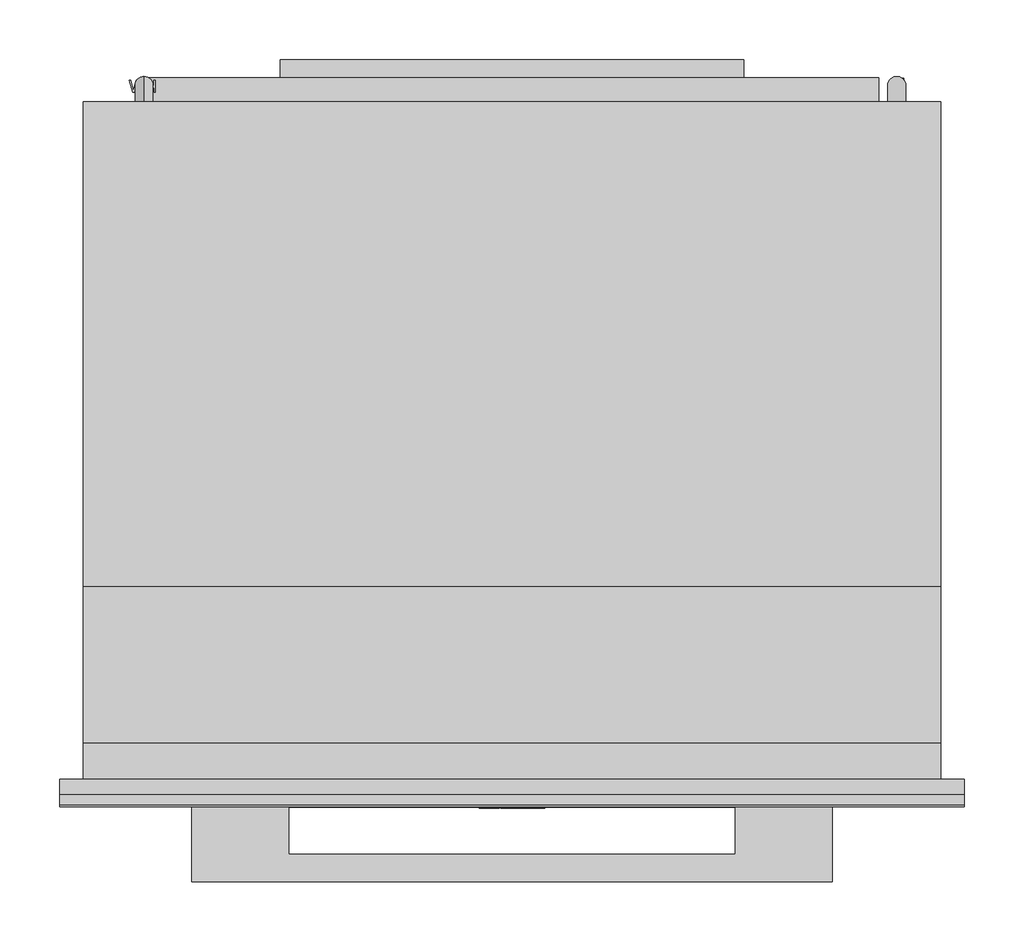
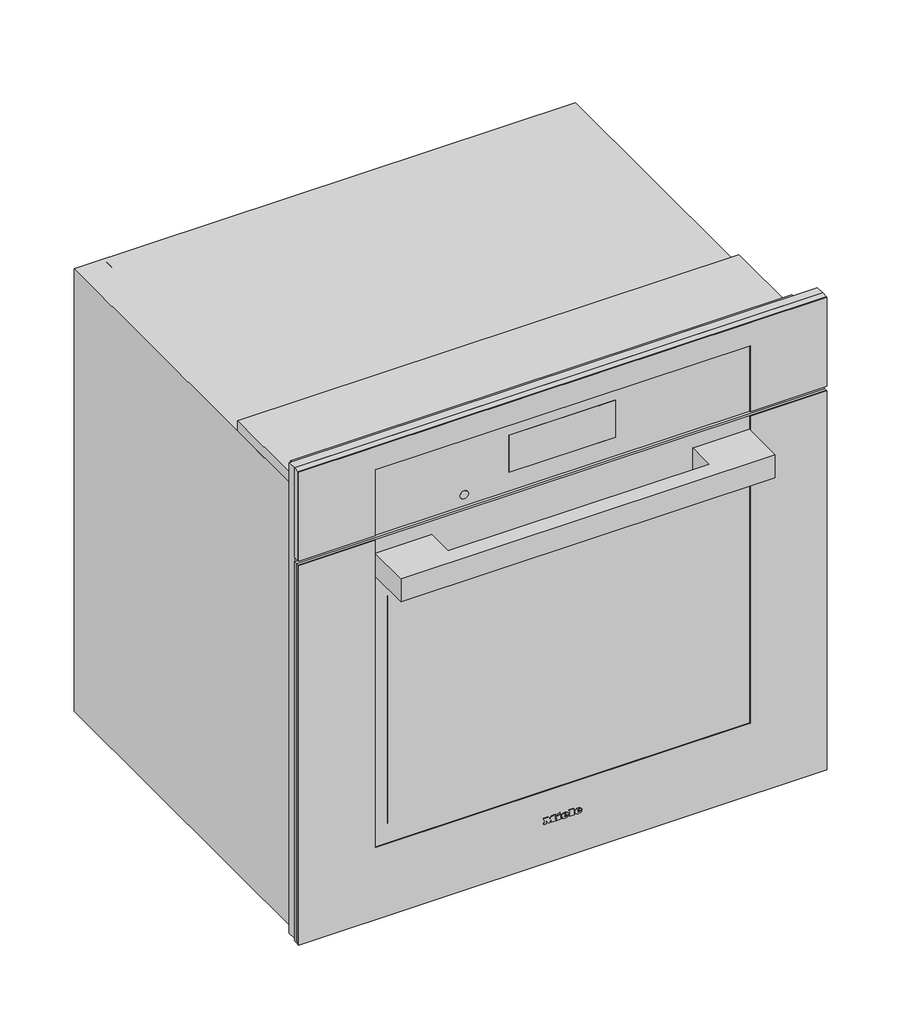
# Not in any storey: 1 proxy.
"""IFC4 building model written with IfcOpenShell, lengths in millimetres."""

from ifc_helpers import new_model, si_unit, origin, place, context, project, spatial, transform, mapped, element, save
from components import specialty_equipment_a832f703

model = new_model("IFC4")

# Units and contexts
model_context = context("Model", 3, world=origin())
ifc_project = project(units=[si_unit("LENGTHUNIT", "METRE", prefix="MILLI")], contexts=[model_context])

# Site, building
site = spatial("IfcSite", under=ifc_project)
building = spatial("IfcBuilding", under=site)

# Proxy
placement = place(None, origin())
specialty_equipment_shape = specialty_equipment_a832f703(model_context)
element("IfcBuildingElementProxy", 1, Name="11805560_USA_H7780BP_EDST-CLST : 22778045_USA_11805560_H7780BP_EDST-CLST", ObjectType="11805560_USA_H7780BP_EDST-CLST : 22778045_USA_11805560_H7780BP_EDST-CLST", at=placement, inside=building, context=model_context, shape_type="MappedRepresentation", body=[
    mapped(specialty_equipment_shape, transform((0.0, 0.0, 0.0), x_axis=(1.0, 0.0, 0.0), y_axis=(0.0, 1.0, 0.0), z_axis=(0.0, 0.0, 1.0))),
])

save(model, "model.ifc")
